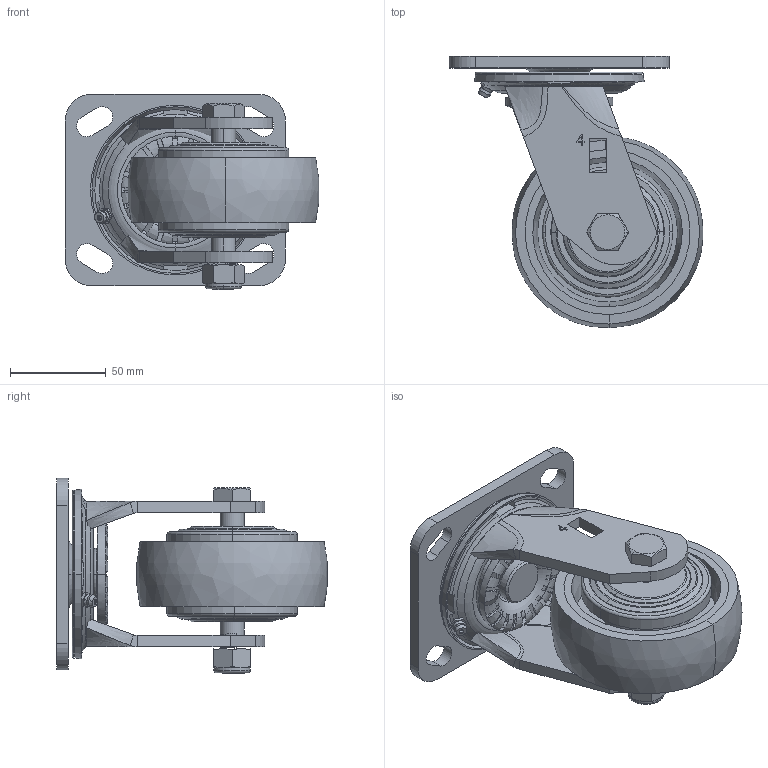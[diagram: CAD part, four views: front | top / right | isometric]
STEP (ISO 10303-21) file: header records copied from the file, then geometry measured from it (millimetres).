
FILE_DESCRIPTION((''),'2;1');
FILE_NAME('PRT0023','2026-01-06T14:02:39',('Administrator'),(''),'CREO PARAMETRIC BY PTC INC, 2022124','CREO PARAMETRIC BY PTC INC, 2022124','');
FILE_SCHEMA(('AUTOMOTIVE_DESIGN { 1 0 10303 214 1 1 1 1 }'));
Length unit declared in the file: millimetre
Products named in the file (1): PRT0023
Bounding box: 132.46 x 141.36 x 102 mm (x, y, z)
Surface area: 113685.2 mm2 (no closed solid volume)
Topology: 0 solids, 31 shells, 373 faces, 1154 edges, 804 vertices
Faces by surface type: plane 139, torus 89, cylinder 60, cone 54, bspline 31
Entity records: 22924 total; most frequent: CARTESIAN_POINT 10327, DIRECTION 2073, ORIENTED_EDGE 1866, EDGE_CURVE 1154, AXIS2_PLACEMENT_3D 861, VERTEX_POINT 804, CIRCLE 509, EDGE_LOOP 425
